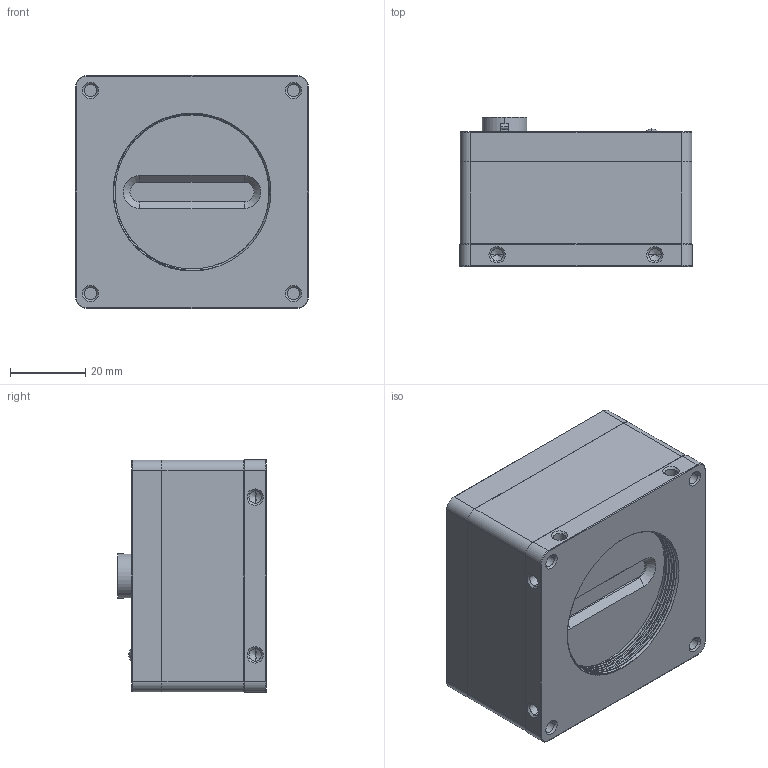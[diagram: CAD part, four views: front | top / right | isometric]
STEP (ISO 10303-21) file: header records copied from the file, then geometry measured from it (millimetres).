
FILE_DESCRIPTION((''),'2;1');
FILE_NAME('0-DH3-3077-0002_SW0004','2023-12-21T14:25:18',('303992'),(''),'CREO PARAMETRIC BY PTC INC, 2020184','CREO PARAMETRIC BY PTC INC, 2020184','');
FILE_SCHEMA(('CONFIG_CONTROL_DESIGN','SHAPE_APPEARANCE_LAYERS_GROUPS'));
Length unit declared in the file: millimetre
Products named in the file (1): 0-DH3-3077-0002_SW0004
Bounding box: 62 x 39.6 x 62 mm (x, y, z)
Volume: 123996.3 mm3; surface area: 21120.5 mm2
Topology: 1 solids, 1 shells, 761 faces, 2029 edges, 1286 vertices
Faces by surface type: plane 411, cylinder 223, cone 109, bspline 10, torus 6, sphere 2
Entity records: 40107 total; most frequent: CARTESIAN_POINT 9182, ORIENTED_EDGE 4006, DIRECTION 3959, PRESENTATION_STYLE_ASSIGNMENT 2765, STYLED_ITEM 2004, CURVE_STYLE 2003, EDGE_CURVE 2003, VECTOR 1355
